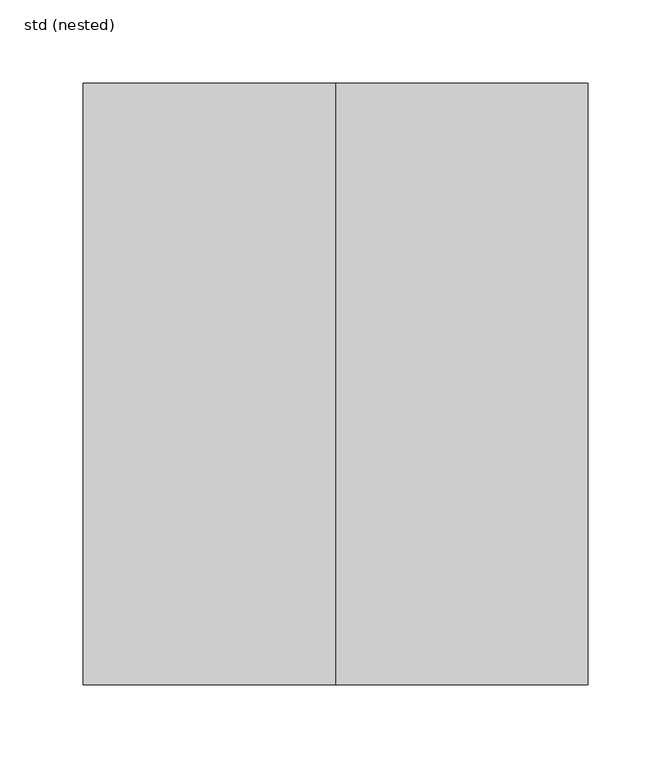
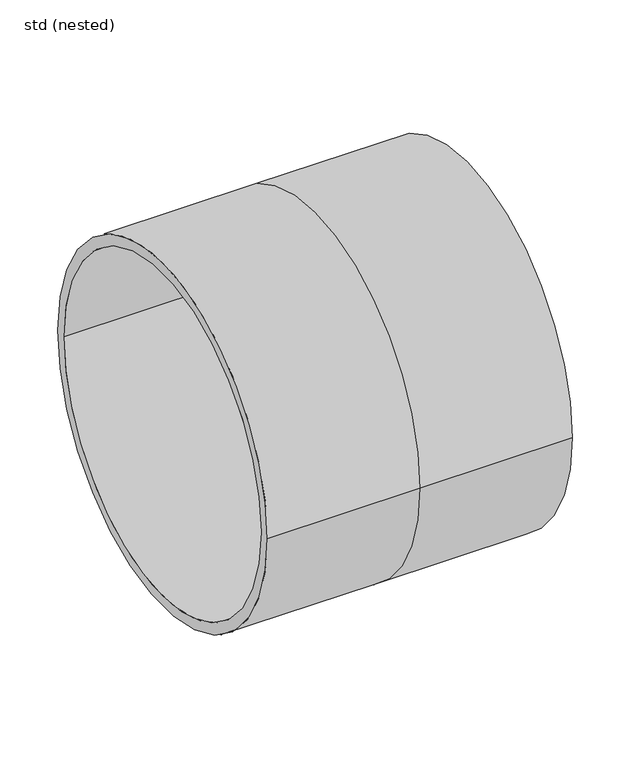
"""IFC4 building model written with IfcOpenShell, lengths in millimetres: pipe fitting geometry, NLRS_52_PIF_WPB_Ultra Kyma steekmof 2MV SH_Dyka : std (nested)."""

from ifc_helpers import new_model, si_unit, frame, origin, place, context, project, spatial, polyline, circle_curve, source, transform, mapped, element, save
from ifc_brep_helpers import plane_surface, cylinder_surface, revolved_surface, advanced_brep


def std_nested_01ad82cb(model_context):
    return source(origin(), model_context, "Body", "AdvancedBrep", [
        advanced_brep(
        [(0.0, -181.0, 0.0), (-152.0, -181.0, 0.0), (-152.0, 181.0, 0.0), (0.0, 181.0, 0.0), (-152.0, 170.0, 0.0), (-152.0, -170.0, 0.0), (0.0, -170.0, 0.0), (0.0, 170.0, 0.0), (152.0, 181.0, 0.0), (152.0, -181.0, 0.0), (152.0, -170.0, 0.0), (152.0, 170.0, 0.0)],
        [
            (0, 1),
            (1, 2, circle_curve(frame((-152.0, 0.0, 0.0), z_axis=(1.0, 0.0, 0.0), x_axis=(0.0, -1.0, 0.0)), 181.0)),
            (2, 3),
            (3, 0, circle_curve(frame((0.0, 0.0, 0.0), z_axis=(-1.0, 0.0, 0.0), x_axis=(0.0, -1.0, 0.0)), 181.0)),
            (4, 5, circle_curve(frame((-152.0, 0.0, 0.0), z_axis=(-1.0, 0.0, 0.0), x_axis=(0.0, -1.0, 0.0)), 170.0)),
            (5, 6),
            (6, 7, circle_curve(frame((0.0, 0.0, 0.0), z_axis=(1.0, 0.0, 0.0), x_axis=(0.0, -1.0, 0.0)), 170.0)),
            (7, 4),
            (0, 3, circle_curve(frame((0.0, 0.0, 0.0), z_axis=(-1.0, 0.0, 0.0), x_axis=(0.0, 1.0, 0.0)), 181.0)),
            (2, 1, circle_curve(frame((-152.0, 0.0, 0.0), z_axis=(1.0, 0.0, 0.0), x_axis=(0.0, 1.0, 0.0)), 181.0)),
            (4, 5, circle_curve(frame((-152.0, 0.0, 0.0), z_axis=(1.0, 0.0, 0.0), x_axis=(0.0, 1.0, 0.0)), 170.0)),
            (7, 6, circle_curve(frame((0.0, 0.0, 0.0), z_axis=(1.0, 0.0, 0.0), x_axis=(0.0, 1.0, 0.0)), 170.0)),
            (8, 9, circle_curve(frame((152.0, 0.0, 0.0), z_axis=(-1.0, 0.0, 0.0), x_axis=(0.0, -1.0, 0.0)), 181.0)),
            (9, 0),
            (3, 8),
            (6, 10),
            (10, 11, circle_curve(frame((152.0, 0.0, 0.0), z_axis=(1.0, 0.0, 0.0), x_axis=(0.0, -1.0, 0.0)), 170.0)),
            (11, 7),
            (9, 8, circle_curve(frame((152.0, 0.0, 0.0), z_axis=(-1.0, 0.0, 0.0), x_axis=(0.0, 1.0, 0.0)), 181.0)),
            (10, 11, circle_curve(frame((152.0, 0.0, 0.0), z_axis=(-1.0, 0.0, 0.0), x_axis=(0.0, 1.0, 0.0)), 170.0)),
        ],
        [
            cylinder_surface(frame((0.0, 0.0, 0.0), z_axis=(1.0, 0.0, 0.0), x_axis=(0.0, -1.0, 0.0)), 181.0),
            revolved_surface(polyline([(0.0, -170.0, 0.0), (-152.0, -170.0, 0.0)]), (0.0, 0.0, 0.0), (1.0, 0.0, 0.0)),
            cylinder_surface(frame((0.0, 0.0, 0.0), z_axis=(1.0, 0.0, 0.0), x_axis=(0.0, 1.0, 0.0)), 181.0),
            plane_surface(frame((-152.0, 0.0, 0.0), z_axis=(-1.0, 0.0, 0.0), x_axis=(0.0, 1.0, 0.0))),
            revolved_surface(polyline([(0.0, 170.0, 0.0), (-152.0, 170.0, 0.0)]), (0.0, 0.0, 0.0), (1.0, 0.0, 0.0)),
            revolved_surface(polyline([(152.0, -170.0, 0.0), (0.0, -170.0, 0.0)]), (0.0, 0.0, 0.0), (1.0, 0.0, 0.0)),
            plane_surface(frame((152.0, 0.0, 0.0), z_axis=(1.0, 0.0, 0.0), x_axis=(0.0, 1.0, 0.0))),
            revolved_surface(polyline([(152.0, 170.0, 0.0), (0.0, 170.0, 0.0)]), (0.0, 0.0, 0.0), (1.0, 0.0, 0.0)),
        ],
        [
            (0, [[1, 2, 3, 4]]),
            (1, [[5, 6, 7, 8]]),
            (2, [[-1, 9, -3, 10]]),
            (3, [[-2, -10], [-5, 11]]),
            (4, [[-6, -11, -8, 12]]),
            (0, [[13, 14, -4, 15]]),
            (5, [[16, 17, 18, -7]]),
            (2, [[-14, 19, -15, -9]]),
            (6, [[-13, -19], [-17, 20]]),
            (7, [[-16, -12, -18, -20]]),
        ],
    ),
    ])


if __name__ == "__main__":
    model = new_model("IFC4")
    model_context = context("Model", 3, world=origin())
    ifc_project = project(units=[si_unit("LENGTHUNIT", "METRE", prefix="MILLI")], contexts=[model_context])
    site = spatial("IfcSite", under=ifc_project)
    building = spatial("IfcBuilding", under=site)
    placement = place(None, origin())
    std_nested_shape = std_nested_01ad82cb(model_context)
    element("IfcPipeFitting", 1, ObjectType="NLRS_52_PIF_WPB_Ultra Kyma steekmof 2MV SH_Dyka : std (nested)", at=placement, inside=building, context=model_context, shape_type="MappedRepresentation", body=[
        mapped(std_nested_shape, transform((0.0, 0.0, 0.0), x_axis=(1.0, 0.0, 0.0), y_axis=(0.0, 1.0, 0.0), z_axis=(0.0, 0.0, 1.0))),
    ])
    save(model, "model.ifc")
